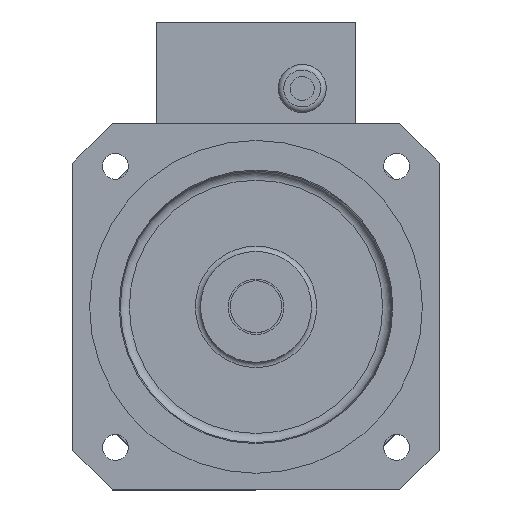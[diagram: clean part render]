
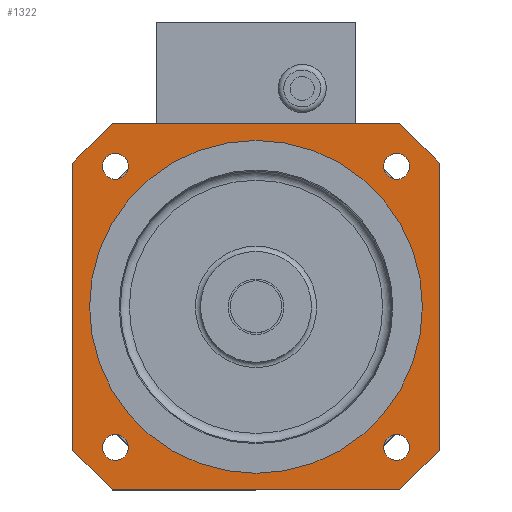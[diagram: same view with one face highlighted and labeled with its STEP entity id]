
A CAD part, top view. The second image highlights one B-rep face of the part: STEP entity #1322.
In plain terms, the highlighted planar face has unit normal (0, 0, 1) as drawn and (0, 0, -1) by its records, which use the part's own axes.
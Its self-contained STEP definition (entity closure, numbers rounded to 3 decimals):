
#1322=ADVANCED_FACE('',(#2007,#2008,#2009,#2010,#2011,#2545),#1874,.T.);
#1874=PLANE('',#15665);
#2007=FACE_BOUND('',#3316,.T.);
#2008=FACE_BOUND('',#3317,.T.);
#2009=FACE_BOUND('',#3318,.T.);
#2010=FACE_BOUND('',#3319,.T.);
#2011=FACE_BOUND('',#3320,.T.);
#2545=FACE_OUTER_BOUND('',#3321,.T.);
#3316=EDGE_LOOP('',(#7128));
#3317=EDGE_LOOP('',(#7129));
#3318=EDGE_LOOP('',(#7130));
#3319=EDGE_LOOP('',(#7131));
#3320=EDGE_LOOP('',(#7132));
#3321=EDGE_LOOP('',(#7133,#7134,#7135,#7136,#7137,#7138,#7139,#7140));
#4254=CIRCLE('',#15660,7.);
#4255=CIRCLE('',#15661,7.);
#4256=CIRCLE('',#15662,7.);
#4257=CIRCLE('',#15663,7.);
#4258=CIRCLE('',#15664,90.);
#7128=ORIENTED_EDGE('',*,*,#11596,.T.);
#7129=ORIENTED_EDGE('',*,*,#11597,.T.);
#7130=ORIENTED_EDGE('',*,*,#11598,.T.);
#7131=ORIENTED_EDGE('',*,*,#11599,.T.);
#7132=ORIENTED_EDGE('',*,*,#11600,.F.);
#7133=ORIENTED_EDGE('',*,*,#11601,.F.);
#7134=ORIENTED_EDGE('',*,*,#11602,.T.);
#7135=ORIENTED_EDGE('',*,*,#11587,.F.);
#7136=ORIENTED_EDGE('',*,*,#11603,.T.);
#7137=ORIENTED_EDGE('',*,*,#11591,.F.);
#7138=ORIENTED_EDGE('',*,*,#11604,.T.);
#7139=ORIENTED_EDGE('',*,*,#11594,.F.);
#7140=ORIENTED_EDGE('',*,*,#11605,.T.);
#9740=VERTEX_POINT('',#23354);
#9741=VERTEX_POINT('',#23355);
#9742=VERTEX_POINT('',#23360);
#9743=VERTEX_POINT('',#23362);
#9744=VERTEX_POINT('',#23366);
#9745=VERTEX_POINT('',#23368);
#9746=VERTEX_POINT('',#23372);
#9747=VERTEX_POINT('',#23374);
#9748=VERTEX_POINT('',#23376);
#9749=VERTEX_POINT('',#23378);
#9750=VERTEX_POINT('',#23380);
#9751=VERTEX_POINT('',#23382);
#9752=VERTEX_POINT('',#23383);
#11587=EDGE_CURVE('',#9740,#9741,#13231,.T.);
#11591=EDGE_CURVE('',#9742,#9743,#13235,.T.);
#11594=EDGE_CURVE('',#9744,#9745,#13238,.T.);
#11596=EDGE_CURVE('',#9746,#9746,#4254,.T.);
#11597=EDGE_CURVE('',#9747,#9747,#4255,.T.);
#11598=EDGE_CURVE('',#9748,#9748,#4256,.T.);
#11599=EDGE_CURVE('',#9749,#9749,#4257,.T.);
#11600=EDGE_CURVE('',#9750,#9750,#4258,.T.);
#11601=EDGE_CURVE('',#9751,#9752,#13240,.T.);
#11602=EDGE_CURVE('',#9751,#9741,#13241,.T.);
#11603=EDGE_CURVE('',#9740,#9743,#13242,.T.);
#11604=EDGE_CURVE('',#9742,#9745,#13243,.T.);
#11605=EDGE_CURVE('',#9744,#9752,#13244,.T.);
#13231=LINE('',#23353,#14371);
#13235=LINE('',#23361,#14375);
#13238=LINE('',#23367,#14378);
#13240=LINE('',#23381,#14380);
#13241=LINE('',#23384,#14381);
#13242=LINE('',#23385,#14382);
#13243=LINE('',#23386,#14383);
#13244=LINE('',#23387,#14384);
#14371=VECTOR('',#18995,1.);
#14375=VECTOR('',#19001,1.);
#14378=VECTOR('',#19006,1.);
#14380=VECTOR('',#19020,1.);
#14381=VECTOR('',#19021,1.);
#14382=VECTOR('',#19022,1.);
#14383=VECTOR('',#19023,1.);
#14384=VECTOR('',#19024,1.);
#15660=AXIS2_PLACEMENT_3D('',#23371,#19010,#19011);
#15661=AXIS2_PLACEMENT_3D('',#23373,#19012,#19013);
#15662=AXIS2_PLACEMENT_3D('',#23375,#19014,#19015);
#15663=AXIS2_PLACEMENT_3D('',#23377,#19016,#19017);
#15664=AXIS2_PLACEMENT_3D('',#23379,#19018,#19019);
#15665=AXIS2_PLACEMENT_3D('',#23388,#19025,#19026);
#18995=DIRECTION('',(1.,0.,0.));
#19001=DIRECTION('',(0.,-1.,0.));
#19006=DIRECTION('',(-1.,0.,0.));
#19010=DIRECTION('',(0.,0.,1.));
#19011=DIRECTION('',(0.,1.,0.));
#19012=DIRECTION('',(0.,0.,1.));
#19013=DIRECTION('',(-1.,0.,0.));
#19014=DIRECTION('',(0.,0.,1.));
#19015=DIRECTION('',(0.,-1.,0.));
#19016=DIRECTION('',(0.,0.,1.));
#19017=DIRECTION('',(1.,0.,0.));
#19018=DIRECTION('',(0.,0.,-1.));
#19019=DIRECTION('',(-1.,0.,0.));
#19020=DIRECTION('',(0.,1.,0.));
#19021=DIRECTION('',(-0.707,-0.707,0.));
#19022=DIRECTION('',(-0.707,0.707,0.));
#19023=DIRECTION('',(0.707,0.707,0.));
#19024=DIRECTION('',(0.707,-0.707,0.));
#19025=DIRECTION('',(0.,0.,-1.));
#19026=DIRECTION('',(-1.,0.,0.));
#23353=CARTESIAN_POINT('',(99.,0.,0.));
#23354=CARTESIAN_POINT('',(21.22,0.,0.));
#23355=CARTESIAN_POINT('',(176.78,0.,0.));
#23360=CARTESIAN_POINT('',(0.,176.78,0.));
#23361=CARTESIAN_POINT('',(0.,99.,0.));
#23362=CARTESIAN_POINT('',(0.,21.22,0.));
#23366=CARTESIAN_POINT('',(176.78,198.,0.));
#23367=CARTESIAN_POINT('',(99.,198.,0.));
#23368=CARTESIAN_POINT('',(21.22,198.,0.));
#23371=CARTESIAN_POINT('',(22.986,175.014,0.));
#23372=CARTESIAN_POINT('',(22.986,182.014,0.));
#23373=CARTESIAN_POINT('',(22.986,22.986,0.));
#23374=CARTESIAN_POINT('',(15.986,22.986,0.));
#23375=CARTESIAN_POINT('',(175.014,22.986,0.));
#23376=CARTESIAN_POINT('',(175.014,15.986,0.));
#23377=CARTESIAN_POINT('',(175.014,175.014,0.));
#23378=CARTESIAN_POINT('',(182.014,175.014,0.));
#23379=CARTESIAN_POINT('',(99.,99.,0.));
#23380=CARTESIAN_POINT('',(9.,99.,0.));
#23381=CARTESIAN_POINT('',(198.,99.,0.));
#23382=CARTESIAN_POINT('',(198.,21.22,0.));
#23383=CARTESIAN_POINT('',(198.,176.78,0.));
#23384=CARTESIAN_POINT('',(187.39,10.61,0.));
#23385=CARTESIAN_POINT('',(10.61,10.61,0.));
#23386=CARTESIAN_POINT('',(10.61,187.39,0.));
#23387=CARTESIAN_POINT('',(187.39,187.39,0.));
#23388=CARTESIAN_POINT('',(99.,99.,0.));
